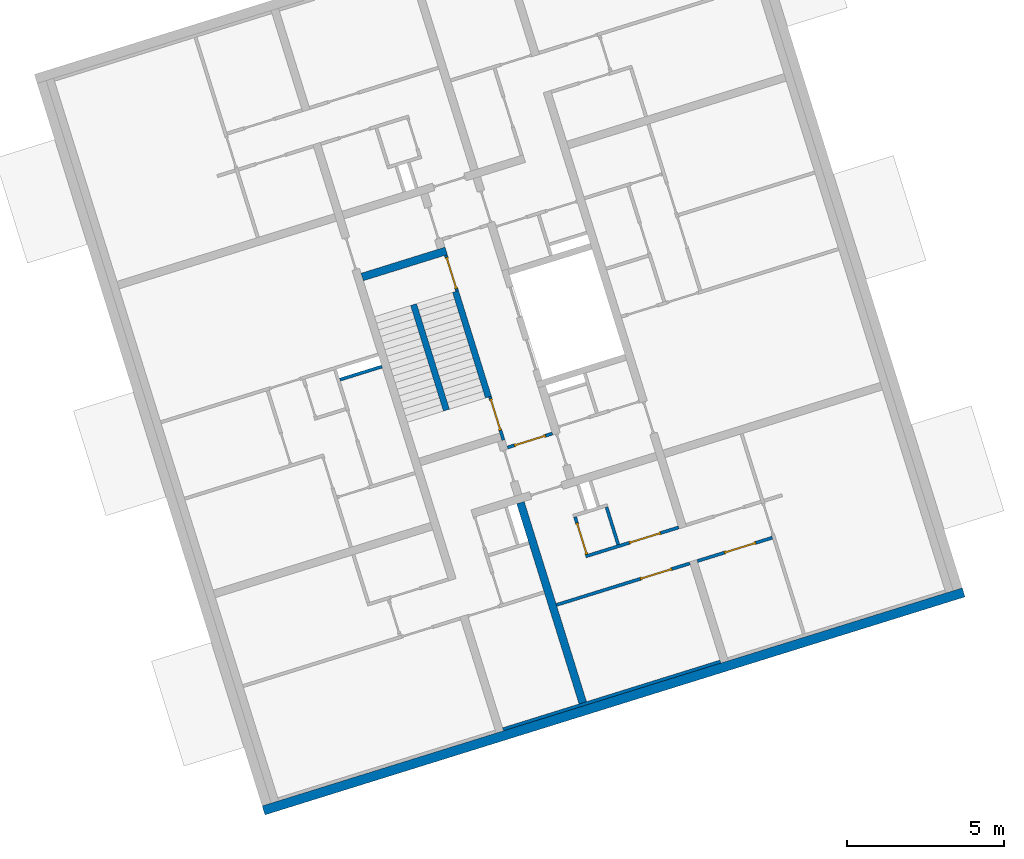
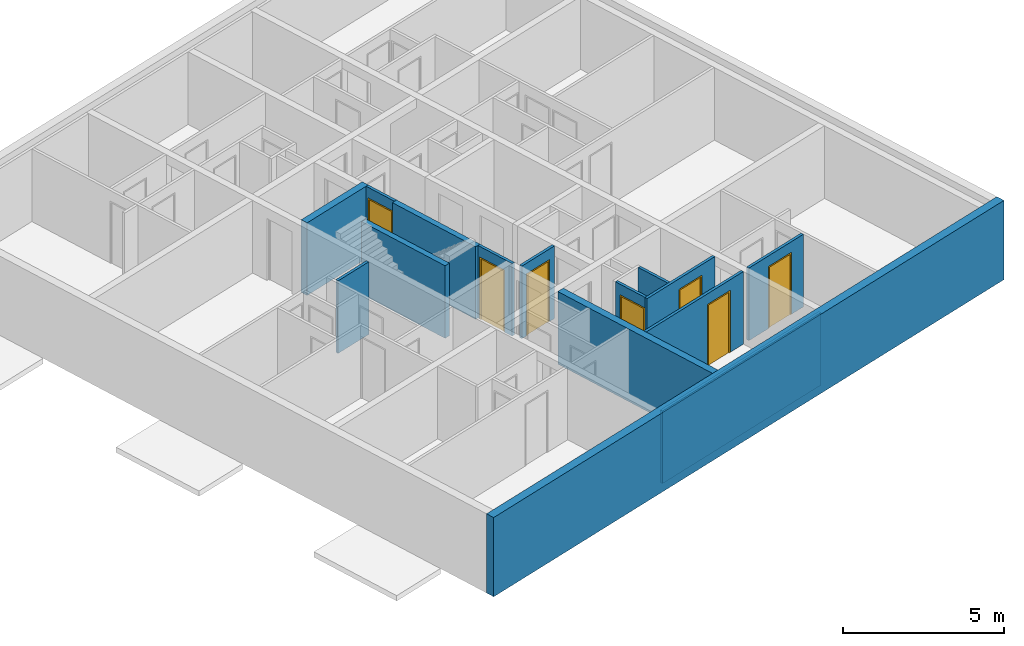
# One storey, part 3 of 9: 15 walls, 7 doors, 8 openings.
"""IFC4 building model written with IfcOpenShell, lengths in metres."""

from ifc_helpers import new_model, entity, si_unit, converted_unit, direction, frame, origin, place, context, subcontext, project, spatial, indexed_curve, outline, extrude, polygons, source, transform, mapped, material, constituent, constituent_set, type_object, type_shapes, element, fill, save


model = new_model("IFC4")

# Units and contexts
model_context = context("Model", 3, precision=1e-05, world=origin(), true_north=direction((6.12323399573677e-17, 1.0)))
body_context = subcontext(model_context, "Body", "Model", "MODEL_VIEW")
ifc_project = project(units=[si_unit("LENGTHUNIT", "METRE"), si_unit("AREAUNIT", "SQUARE_METRE"), converted_unit("PLANEANGLEUNIT", "DEGREE", entity("IfcPlaneAngleMeasure", 0.0174532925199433), si_unit("PLANEANGLEUNIT", "RADIAN"), dimensions=[0, 0, 0, 0, 0, 0, 0]), si_unit("VOLUMEUNIT", "CUBIC_METRE")], contexts=[model_context])

# Site, building, storey
site_placement = place(None, frame((13.1347999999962, 11.9886000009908, 0.0), z_axis=(0.0, 0.0, 1.0), x_axis=(0.954770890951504, 0.297342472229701, 0.0)))
site = spatial("IfcSite", under=ifc_project, at=site_placement, Name="Schiehaven", CompositionType="ELEMENT")
building_placement = place(site_placement, origin())
building = spatial("IfcBuilding", under=site, at=building_placement, Name="VORM huis", CompositionType="ELEMENT")
storey_placement = place(building_placement, frame((0.0, 0.0, 18.9)))
storey = spatial("IfcBuildingStorey", under=building, at=storey_placement, Name="06 zesde verdieping", CompositionType="ELEMENT", Elevation=18.9)

# Walls
ifc_material_1 = material(Name="ntb_ntb_ntb", Category="Miscellaneous")
wall_type_1 = type_object("IfcWallType", Name="Basic Wall:21_WA_gevel_binnenspouwwand 100mm_gen", PredefinedType="STANDARD")
wall_1_placement = place(storey_placement, frame((65.1250000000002, 5.0499999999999, 0.0)))
element("IfcWall", 1, at=wall_1_placement, inside=storey, type_object=wall_type_1, material=ifc_material_1, Name="Binnenspouwblad", ObjectType="Wand", PredefinedType="NOTDEFINED", context=body_context, shape_type="SweptSolid", body=[
    extrude(outline(indexed_curve([(7.24999999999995, 0.0500000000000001), (1.59680748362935e-16, 0.0500000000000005), (-1.59680748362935e-16, -0.0500000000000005), (7.24999999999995, -0.050000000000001), (7.24999999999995, 0.0500000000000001)], self_intersect=False)), origin(), (0.0, 0.0, 1.0), 2.75),
])
wall_type_2 = type_object("IfcWallType", Name="Basic Wall: 300mm_gen", PredefinedType="STANDARD")
wall_2_placement = place(storey_placement, frame((57.075, 4.8499999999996, 0.0)))
element("IfcWall", 2, at=wall_2_placement, inside=storey, type_object=wall_type_2, material=ifc_material_1, Name="Gevelwand", ObjectType="Wand", PredefinedType="NOTDEFINED", context=body_context, shape_type="SweptSolid", body=[
    extrude(outline(indexed_curve([(23.3500000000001, 0.15), (1.78509395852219e-15, 0.149999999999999), (-1.78509395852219e-15, -0.15), (23.3500000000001, -0.15), (23.3500000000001, 0.15)], self_intersect=False)), origin(), (0.0, 0.0, 1.0), 3.0),
])
ifc_material_2 = material(Name="beton_gewapend_prefab-element", Category="Miscellaneous")
wall_type_3 = type_object("IfcWallType", Name="Basic Wall:28_WA_skelet_wand 200mm_gen", PredefinedType="STANDARD")
wall_3_placement = place(storey_placement, frame((67.8250000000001, 15.2899999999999, 0.0), z_axis=(0.0, 0.0, 1.0), x_axis=(0.0, 1.0, 0.0)))
element("IfcWall", 3, at=wall_3_placement, inside=storey, type_object=wall_type_3, material=ifc_material_2, Name="Constructieve wand", ObjectType="Wand", PredefinedType="NOTDEFINED", context=body_context, shape_type="SweptSolid", body=[
    extrude(outline(indexed_curve([(3.52, 0.100000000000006), (1.54310621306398e-16, 0.100000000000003), (-1.54310621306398e-16, -0.100000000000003), (3.52, -0.1), (3.52, 0.100000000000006)], self_intersect=False)), origin(), (0.0, 0.0, 1.0), 2.75),
])
wall_4_placement = place(storey_placement, frame((66.4250000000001, 15.2899999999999, 0.0), z_axis=(0.0, 0.0, 1.0), x_axis=(0.0, 1.0, 0.0)))
element("IfcWall", 4, at=wall_4_placement, inside=storey, type_object=wall_type_3, material=ifc_material_2, Name="Constructieve wand", ObjectType="Wand", PredefinedType="NOTDEFINED", context=body_context, shape_type="SweptSolid", body=[
    extrude(outline(indexed_curve([(3.52, 0.100000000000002), (2.77363704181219e-16, 0.100000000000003), (-2.77363704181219e-16, -0.100000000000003), (3.52, -0.100000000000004), (3.52, 0.100000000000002)], self_intersect=False)), origin(), (0.0, 0.0, 1.0), 2.75),
])
wall_type_4 = type_object("IfcWallType", Name="Basic Wall:22_WA_afbouw_binnenwand 250mm_gen", PredefinedType="STANDARD")
wall_5_placement = place(storey_placement, frame((65.1249999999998, 20.1349999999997, 0.0)))
element("IfcWall", 5, at=wall_5_placement, inside=storey, type_object=wall_type_4, material=ifc_material_1, Name="Binnenwand", ObjectType="Wand", PredefinedType="NOTDEFINED", context=body_context, shape_type="SweptSolid", body=[
    extrude(outline(indexed_curve([(2.80000000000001, 0.124999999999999), (1.66486711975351e-15, 0.125000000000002), (-1.66486711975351e-15, -0.125000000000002), (2.80000000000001, -0.125000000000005), (2.80000000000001, 0.124999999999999)], self_intersect=False)), origin(), (0.0, 0.0, 1.0), 2.75),
])
wall_6_placement = place(storey_placement, frame((67.7999999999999, 11.7749999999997, 0.0), z_axis=(0.0, 0.0, 1.0), x_axis=(0.0, -1.0, 0.0)))
element("IfcWall", 6, at=wall_6_placement, inside=storey, type_object=wall_type_4, material=ifc_material_1, Name="Binnenwand", ObjectType="Wand", PredefinedType="NOTDEFINED", context=body_context, shape_type="SweptSolid", body=[
    extrude(outline(indexed_curve([(6.67500000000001, 0.124999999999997), (-6.98570836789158e-16, 0.124999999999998), (6.98570836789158e-16, -0.124999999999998), (6.67500000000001, -0.124999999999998), (6.67500000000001, 0.124999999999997)], self_intersect=False)), origin(), (0.0, 0.0, 1.0), 2.75),
])

# Wall, opening, door
wall_type_5 = type_object("IfcWallType", Name="Basic Wall:22_WA_afbouw_binnenwand 100mm_gen", PredefinedType="STANDARD")
wall_7_placement = place(storey_placement, frame((67.8749999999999, 13.8399999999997, 0.0), z_axis=(0.0, 0.0, 1.0), x_axis=(0.0, 1.0, 0.0)))
wall_7 = element("IfcWall", 7, at=wall_7_placement, inside=storey, type_object=wall_type_5, material=ifc_material_1, Name="Binnenwand", ObjectType="Wand", PredefinedType="NOTDEFINED", context=body_context, shape_type="Tessellation", body=[
    polygons([(1.44999999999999, -0.0500000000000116, 0.0), (1.44999999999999, -0.0500000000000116, 2.75), (0.0, -0.0500000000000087, 2.75), (0.0, -0.0500000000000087, 0.0), (0.324999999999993, -0.0500000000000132, 0.0), (0.324999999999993, -0.0500000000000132, 2.34999999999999), (1.37499999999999, -0.0500000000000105, 2.34999999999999), (1.37499999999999, -0.0500000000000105, 0.0), (1.44999999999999, 0.0500000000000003, 2.75), (1.44999999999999, 0.0500000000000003, 0.0), (1.37499999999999, 0.0500000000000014, 0.0), (1.37499999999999, 0.0500000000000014, 2.34999999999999), (0.324999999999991, 0.0499999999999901, 2.34999999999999), (0.324999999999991, 0.0499999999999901, 0.0), (0.250000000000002, 0.0499999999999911, 0.0), (2.16573425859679e-15, 0.0499999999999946, 0.0), (2.16573425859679e-15, 0.0499999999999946, 2.75), (0.250000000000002, 0.0499999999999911, 2.75)], [[[1, 2, 3, 4, 5, 6, 7, 8]], [[9, 10, 11, 12, 13, 14, 15, 16, 17, 18]], [[4, 16, 15, 14, 5]], [[2, 1, 10, 9]], [[3, 2, 9, 18, 17]], [[13, 6, 5, 14]], [[7, 12, 11, 8]], [[6, 13, 12, 7]], [[4, 3, 17, 16]], [[10, 1, 8, 11]]], closed=True),
])
opening_1_placement = place(wall_7_placement, frame((0.324999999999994, -0.0499999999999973, 0.0)))
opening_1 = element("IfcOpeningElement", 8, at=opening_1_placement, cuts=wall_7, Name="Vluchtdeur", PredefinedType="OPENING", context=body_context, shape_type="SweptSolid", body=[
    extrude(outline(indexed_curve([(2.34999999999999, 1.35358391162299e-15), (2.34999999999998, 1.05), (0.0, 1.05), (2.16573425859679e-15, 1.35358391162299e-15), (2.34999999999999, 1.35358391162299e-15)], self_intersect=False)), frame((0.0, 0.0, 0.0), z_axis=(0.0, 1.0, 0.0), x_axis=(0.0, 0.0, 1.0)), (0.0, 0.0, 1.0), 0.1),
])
ifc_material_3 = material(Name="PD_a_binnenwandopeningen", Category="Miscellaneous")
ifc_constituent_1 = constituent(ifc_material_3, Name="PD_a_binnenwandopeningen", Category="Miscellaneous")
ifc_material_4 = material(Name="metaal_aluminium_ntb", Category="Miscellaneous")
ifc_constituent_2 = constituent(ifc_material_4, Name="metaal_aluminium_ntb", Category="Miscellaneous")
ifc_constituent_set_1 = constituent_set(constituents=[ifc_constituent_1, ifc_constituent_2])
ifc_constituent_3 = constituent(ifc_material_3, Name="PD_a_binnenwandopeningen", Category="Miscellaneous")
ifc_constituent_4 = constituent(ifc_material_4, Name="Panel", Category="Miscellaneous")
ifc_constituent_set_2 = constituent_set(constituents=[ifc_constituent_3, ifc_constituent_4])
door_type_1 = type_object("IfcDoorType", Name="32_DO_binnendeur enkel:binnendeur zelfsluitend 30min", OperationType="NOTDEFINED", PredefinedType="DOOR", material=ifc_constituent_set_2)
shared_shape_1 = source(origin(), body_context, "Body", "SweptSolid", [
    extrude(outline(indexed_curve([(0.475, -1.16249999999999), (0.525, -1.16249999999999), (0.525, 1.18749999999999), (-0.525, 1.18749999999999), (-0.525, -1.16249999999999), (-0.475, -1.16249999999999), (-0.475, 1.13749999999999), (0.475, 1.13749999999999), (0.475, -1.16249999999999)], self_intersect=False)), frame((0.525000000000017, 0.100000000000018, 1.16249999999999), z_axis=(0.0, -1.0, 0.0), x_axis=(1.0, 0.0, 0.0)), (0.0, 0.0, 1.0), 0.1),
    extrude(outline(indexed_curve([(-0.475, -0.025), (0.475, -0.025), (0.475, 0.025), (-0.475, 0.025), (-0.475, -0.025)], self_intersect=False)), frame((0.525000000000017, 0.0499999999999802, 0.0)), (0.0, 0.0, 1.0), 2.29999999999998),
])
type_shapes(door_type_1, [shared_shape_1])
door_1_placement = place(opening_1_placement, origin())
door_1 = element("IfcDoor", 9, at=door_1_placement, inside=storey, type_object=door_type_1, material=ifc_constituent_set_1, Name="Vluchtdeur", ObjectType="Deur", OperationType="NOTDEFINED", OverallHeight=2.34999999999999, OverallWidth=1.05, PredefinedType="DOOR", context=body_context, shape_type="MappedRepresentation", body=[
    mapped(shared_shape_1, transform((0.0, 0.0, 0.0), scale=1.0)),
])
fill(opening_1, door_1)

wall_8_placement = place(storey_placement, frame((67.8750000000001, 20.0099999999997, 0.0), z_axis=(0.0, 0.0, 1.0), x_axis=(0.0, -1.0, 0.0)))
wall_8 = element("IfcWall", 10, at=wall_8_placement, inside=storey, type_object=wall_type_5, material=ifc_material_1, Name="Binnenwand", ObjectType="Wand", PredefinedType="NOTDEFINED", context=body_context, shape_type="Tessellation", body=[
    polygons([(1.19999999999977, -0.0500000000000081, 0.0), (1.19999999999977, -0.0500000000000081, 2.75), (0.0, -0.0500000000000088, 2.75), (0.0, -0.0500000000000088, 0.0), (0.0749999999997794, -0.0500000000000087, 0.0), (0.0749999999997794, -0.0500000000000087, 2.34999999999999), (1.12499999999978, -0.0500000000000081, 2.34999999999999), (1.12499999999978, -0.0500000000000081, 0.0), (1.19999999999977, 0.0499999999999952, 2.75), (1.19999999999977, 0.0499999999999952, 0.0), (1.12499999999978, 0.0499999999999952, 0.0), (1.12499999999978, 0.0499999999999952, 2.34999999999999), (0.0749999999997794, 0.0499999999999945, 2.34999999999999), (0.0749999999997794, 0.0499999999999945, 0.0), (0.0, 0.0499999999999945, 0.0), (0.0, 0.0499999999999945, 2.75)], [[[1, 2, 3, 4, 5, 6, 7, 8]], [[9, 10, 11, 12, 13, 14, 15, 16]], [[4, 15, 14, 5]], [[2, 1, 10, 9]], [[3, 2, 9, 16]], [[13, 6, 5, 14]], [[6, 13, 12, 7]], [[7, 12, 11, 8]], [[4, 3, 16, 15]], [[10, 1, 8, 11]]], closed=True),
])
opening_2_placement = place(wall_8_placement, frame((1.12499999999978, 0.0499999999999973, 0.0)))
opening_2 = element("IfcOpeningElement", 11, at=opening_2_placement, cuts=wall_8, Name="Vluchtdeur", PredefinedType="OPENING", context=body_context, shape_type="SweptSolid", body=[
    extrude(outline(indexed_curve([(2.34999999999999, 0.0), (2.34999999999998, 1.05), (0.0, 1.05), (2.16573425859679e-15, 0.0), (2.34999999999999, 0.0)], self_intersect=False)), frame((0.0, 0.0, 0.0), z_axis=(0.0, -1.0, 0.0), x_axis=(0.0, 0.0, 1.0)), (0.0, 0.0, 1.0), 0.1),
])
ifc_constituent_5 = constituent(ifc_material_3, Name="PD_a_binnenwandopeningen", Category="Miscellaneous")
ifc_constituent_6 = constituent(ifc_material_4, Name="metaal_aluminium_ntb", Category="Miscellaneous")
ifc_constituent_set_3 = constituent_set(constituents=[ifc_constituent_5, ifc_constituent_6])
door_2_placement = place(opening_2_placement, frame((0.0, 0.0, 0.0), z_axis=(0.0, 0.0, 1.0), x_axis=(-1.0, 0.0, 0.0)))
door_2 = element("IfcDoor", 12, at=door_2_placement, inside=storey, type_object=door_type_1, material=ifc_constituent_set_3, Name="Vluchtdeur", ObjectType="Deur", OperationType="NOTDEFINED", OverallHeight=2.34999999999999, OverallWidth=1.05, PredefinedType="DOOR", context=body_context, shape_type="MappedRepresentation", body=[
    mapped(shared_shape_1, transform((0.0, 0.0, 0.0), scale=1.0)),
])
fill(opening_2, door_2)

wall_9_placement = place(storey_placement, frame((67.9249999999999, 13.5749999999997, 0.0)))
wall_9 = element("IfcWall", 13, at=wall_9_placement, inside=storey, type_object=wall_type_5, material=ifc_material_1, Name="Binnenwand", ObjectType="Wand", PredefinedType="NOTDEFINED", context=body_context, shape_type="Tessellation", body=[
    polygons([(1.5, -0.0500000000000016, 2.75), (2.96853060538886e-15, -0.0500000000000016, 2.75), (2.96853060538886e-15, -0.0500000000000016, 2.34999999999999), (2.96853060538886e-15, -0.0500000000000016, 0.0), (0.225000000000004, -0.0500000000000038, 0.0), (0.225000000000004, -0.0500000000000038, 2.34999999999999), (1.27500000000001, -0.0500000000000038, 2.34999999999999), (1.27500000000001, -0.0500000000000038, 0.0), (1.5, -0.0500000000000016, 0.0), (1.5, -0.0500000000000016, 2.34999999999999), (4.71986391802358e-15, 0.0499999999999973, 2.75), (1.5, 0.0500000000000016, 2.75), (1.5, 0.0500000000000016, 0.0), (1.27500000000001, 0.0499999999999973, 0.0), (1.27500000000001, 0.0499999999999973, 2.34999999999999), (0.225000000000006, 0.0499999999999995, 2.34999999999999), (0.225000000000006, 0.0499999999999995, 0.0), (4.71986391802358e-15, 0.0499999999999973, 0.0)], [[[1, 2, 3, 4, 5, 6, 7, 8, 9, 10]], [[11, 12, 13, 14, 15, 16, 17, 18]], [[4, 18, 17, 5]], [[2, 1, 12, 11]], [[16, 6, 5, 17]], [[6, 16, 15, 7]], [[7, 15, 14, 8]], [[4, 3, 2, 11, 18]], [[1, 10, 9, 13, 12]], [[13, 9, 8, 14]]], closed=True),
])
opening_3_placement = place(wall_9_placement, frame((0.225000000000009, -0.0499999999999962, 0.0)))
opening_3 = element("IfcOpeningElement", 14, at=opening_3_placement, cuts=wall_9, Name="Vluchtdeur", PredefinedType="OPENING", context=body_context, shape_type="SweptSolid", body=[
    extrude(outline(indexed_curve([(2.34999999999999, 1.05), (0.0, 1.05), (0.0, 1.86682906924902e-29), (2.34999999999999, 1.86682906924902e-29), (2.34999999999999, 1.05)], self_intersect=False)), frame((0.0, 0.0, 0.0), z_axis=(0.0, 1.0, 0.0), x_axis=(0.0, 0.0, 1.0)), (0.0, 0.0, 1.0), 0.1),
])
ifc_constituent_7 = constituent(ifc_material_3, Name="PD_a_binnenwandopeningen", Category="Miscellaneous")
ifc_constituent_8 = constituent(ifc_material_4, Name="metaal_aluminium_ntb", Category="Miscellaneous")
ifc_constituent_set_4 = constituent_set(constituents=[ifc_constituent_7, ifc_constituent_8])
ifc_constituent_9 = constituent(ifc_material_3, Name="PD_a_binnenwandopeningen", Category="Miscellaneous")
ifc_constituent_10 = constituent(ifc_material_4, Name="Panel", Category="Miscellaneous")
ifc_constituent_set_5 = constituent_set(constituents=[ifc_constituent_9, ifc_constituent_10])
door_type_2 = type_object("IfcDoorType", Name="32_DO_binnendeur enkel:binnendeur zelfsluitend 30min", OperationType="NOTDEFINED", PredefinedType="DOOR", material=ifc_constituent_set_5)
shared_shape_2 = source(origin(), body_context, "Body", "SweptSolid", [
    extrude(outline(indexed_curve([(-1.16249999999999, -0.525000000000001), (1.18749999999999, -0.525), (1.18749999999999, 0.525), (-1.16249999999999, 0.525), (-1.16249999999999, 0.475), (1.13749999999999, 0.475), (1.13749999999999, -0.475), (-1.16249999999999, -0.475), (-1.16249999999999, -0.525000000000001)], self_intersect=False)), frame((0.525000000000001, 0.0, 1.16249999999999), z_axis=(0.0, 1.0, 0.0), x_axis=(0.0, 0.0, 1.0)), (0.0, 0.0, 1.0), 0.1),
    extrude(outline(indexed_curve([(-0.025, -0.475), (0.025, -0.475), (0.025, 0.475), (-0.025, 0.475), (-0.025, -0.475)], self_intersect=False)), frame((0.525000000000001, 0.0499999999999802, 0.0), z_axis=(0.0, 0.0, 1.0), x_axis=(0.0, 1.0, 0.0)), (0.0, 0.0, 1.0), 2.29999999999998),
])
type_shapes(door_type_2, [shared_shape_2])
door_3_placement = place(opening_3_placement, origin())
door_3 = element("IfcDoor", 15, at=door_3_placement, inside=storey, type_object=door_type_2, material=ifc_constituent_set_4, Name="Vluchtdeur", ObjectType="Deur", OperationType="NOTDEFINED", OverallHeight=2.34999999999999, OverallWidth=1.05, PredefinedType="DOOR", context=body_context, shape_type="MappedRepresentation", body=[
    mapped(shared_shape_2, transform((0.0, 0.0, 0.0), scale=1.0)),
])
fill(opening_3, door_3)

wall_10_placement = place(storey_placement, frame((72.375, 8.32499999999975, 0.0), z_axis=(0.0, 0.0, 1.0), x_axis=(-1.0, 0.0, 0.0)))
wall_10 = element("IfcWall", 16, at=wall_10_placement, inside=storey, type_object=wall_type_5, material=ifc_material_1, Name="Binnenwand", ObjectType="Wand", PredefinedType="NOTDEFINED", context=body_context, shape_type="Tessellation", body=[
    polygons([(-1.02529302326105e-15, -0.0500000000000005, 2.16573425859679e-15), (0.600000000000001, -0.0500000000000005, 2.16573425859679e-15), (0.600000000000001, -0.0500000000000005, 2.34999999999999), (1.65000000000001, -0.0500000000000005, 2.34999999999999), (1.65000000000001, -0.0500000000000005, 2.16573425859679e-15), (4.45000000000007, -0.0500000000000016, 2.16573425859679e-15), (4.45000000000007, -0.0500000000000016, 2.75), (-1.02529302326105e-15, -0.0500000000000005, 2.75), (0.600000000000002, 0.0499999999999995, 2.34999999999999), (0.600000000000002, 0.0499999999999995, 2.16573425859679e-15), (2.28205931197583e-16, 0.0499999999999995, 2.16573425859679e-15), (2.28205931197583e-16, 0.0499999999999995, 2.75), (4.45000000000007, 0.0499999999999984, 2.75), (4.45000000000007, 0.0499999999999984, 2.16573425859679e-15), (1.65000000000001, 0.0499999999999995, 2.16573425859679e-15), (1.65000000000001, 0.0499999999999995, 2.34999999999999)], [[[1, 2, 3, 4, 5, 6, 7, 8]], [[9, 10, 11, 12, 13, 14, 15, 16]], [[11, 10, 2, 1]], [[7, 6, 14, 13]], [[8, 7, 13, 12]], [[1, 8, 12, 11]], [[5, 4, 16, 15]], [[3, 2, 10, 9]], [[4, 3, 9, 16]], [[15, 14, 6, 5]]], closed=True),
])
opening_4_placement = place(wall_10_placement, frame((1.65000000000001, 0.0500000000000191, 0.0)))
opening_4 = element("IfcOpeningElement", 17, at=opening_4_placement, cuts=wall_10, Name="Binnendeur", PredefinedType="OPENING", context=body_context, shape_type="SweptSolid", body=[
    extrude(outline(indexed_curve([(2.34999999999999, 2.1208950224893e-30), (2.34999999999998, 1.05), (0.0, 1.05), (2.16573425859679e-15, 2.1208950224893e-30), (2.34999999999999, 2.1208950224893e-30)], self_intersect=False)), frame((0.0, 0.0, 0.0), z_axis=(0.0, -1.0, 0.0), x_axis=(0.0, 0.0, 1.0)), (0.0, 0.0, 1.0), 0.1),
])
ifc_constituent_11 = constituent(ifc_material_3, Name="PD_a_binnenwandopeningen", Category="Miscellaneous")
ifc_constituent_12 = constituent(ifc_material_4, Name="metaal_aluminium_ntb", Category="Miscellaneous")
ifc_constituent_set_6 = constituent_set(constituents=[ifc_constituent_11, ifc_constituent_12])
ifc_constituent_13 = constituent(ifc_material_3, Name="PD_a_binnenwandopeningen", Category="Miscellaneous")
ifc_constituent_14 = constituent(ifc_material_4, Name="Panel", Category="Miscellaneous")
ifc_constituent_set_7 = constituent_set(constituents=[ifc_constituent_13, ifc_constituent_14])
door_type_3 = type_object("IfcDoorType", Name="32_DO_binnendeur enkel:binnendeur", OperationType="REVOLVING", PredefinedType="DOOR", material=ifc_constituent_set_7)
shared_shape_3 = source(origin(), body_context, "Body", "SweptSolid", [
    extrude(outline(indexed_curve([(0.475, -1.16249999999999), (0.525, -1.16249999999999), (0.525, 1.18749999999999), (-0.525, 1.18749999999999), (-0.525, -1.16249999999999), (-0.475, -1.16249999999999), (-0.475, 1.13749999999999), (0.475, 1.13749999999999), (0.475, -1.16249999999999)], self_intersect=False)), frame((0.525000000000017, 0.100000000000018, 1.16249999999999), z_axis=(0.0, -1.0, 0.0), x_axis=(1.0, 0.0, 0.0)), (0.0, 0.0, 1.0), 0.1),
    extrude(outline(indexed_curve([(-0.475, -0.025), (0.475, -0.025), (0.475, 0.025), (-0.475, 0.025), (-0.475, -0.025)], self_intersect=False)), frame((0.525000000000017, 0.0499999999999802, 0.0)), (0.0, 0.0, 1.0), 2.29999999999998),
])
type_shapes(door_type_3, [shared_shape_3])
door_4_placement = place(opening_4_placement, frame((0.0, 0.0, 0.0), z_axis=(0.0, 0.0, 1.0), x_axis=(-1.0, 0.0, 0.0)))
door_4 = element("IfcDoor", 18, at=door_4_placement, inside=storey, type_object=door_type_3, material=ifc_constituent_set_6, Name="Binnendeur", ObjectType="Deur", OperationType="REVOLVING", OverallHeight=2.34999999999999, OverallWidth=1.05, PredefinedType="DOOR", context=body_context, shape_type="MappedRepresentation", body=[
    mapped(shared_shape_3, transform((0.0, 0.0, 0.0), scale=1.0)),
])
fill(opening_4, door_4)

# Wall, openings, door
wall_11_placement = place(storey_placement, frame((72.375, 9.52499999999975, 0.0), z_axis=(0.0, 0.0, 1.0), x_axis=(-1.0, 0.0, 0.0)))
wall_11 = element("IfcWall", 19, at=wall_11_placement, inside=storey, type_object=wall_type_5, material=ifc_material_1, Name="Binnenwand", ObjectType="Wand", PredefinedType="NOTDEFINED", context=body_context, shape_type="Tessellation", body=[
    polygons([(1.65, -0.0500000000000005, 2.34999999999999), (1.65, -0.0500000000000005, 2.16573425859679e-15), (1.95000000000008, -0.0500000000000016, 2.16573425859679e-15), (2.05000000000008, -0.0500000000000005, 2.16573425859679e-15), (3.10000000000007, -0.0500000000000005, 2.16573425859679e-15), (3.10000000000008, -0.0500000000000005, 2.34999999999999), (3.10000000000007, -0.0500000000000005, 2.75), (3.00000000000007, -0.0500000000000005, 2.75), (2.05000000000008, -0.0500000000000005, 2.75), (1.95000000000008, -0.0500000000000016, 2.75), (1.25859359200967e-15, -0.0500000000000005, 2.75), (1.25859359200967e-15, -0.0500000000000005, 2.16573425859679e-15), (0.599999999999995, -0.0500000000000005, 2.16573425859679e-15), (0.599999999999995, -0.0500000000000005, 2.34999999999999), (3.10000000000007, 0.0499999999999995, 2.16573425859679e-15), (1.65, 0.0499999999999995, 2.16573425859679e-15), (1.65, 0.0499999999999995, 2.34999999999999), (0.599999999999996, 0.0499999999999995, 2.34999999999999), (0.599999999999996, 0.0499999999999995, 2.16573425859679e-15), (2.51209254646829e-15, 0.0499999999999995, 2.16573425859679e-15), (2.51209254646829e-15, 0.0499999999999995, 2.75), (3.10000000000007, 0.0499999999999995, 2.75)], [[[1, 2, 3, 4, 5, 6, 7, 8, 9, 10, 11, 12, 13, 14]], [[15, 16, 17, 18, 19, 20, 21, 22]], [[13, 12, 20, 19]], [[11, 10, 9, 8, 7, 22, 21]], [[12, 11, 21, 20]], [[19, 18, 14, 13]], [[17, 16, 2, 1]], [[18, 17, 1, 14]], [[7, 6, 5, 15, 22]], [[5, 4, 3, 2, 16, 15]]], closed=True),
])
opening_5_placement = place(wall_11_placement, origin())
element("IfcOpeningElement", 20, at=opening_5_placement, cuts=wall_11, Name="Binnendeur", PredefinedType="OPENING", context=body_context, shape_type="SweptSolid", body=[
    extrude(outline(indexed_curve([(-0.050000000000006, -1.17499999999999), (0.0499999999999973, -1.17499999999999), (0.0499999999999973, 1.17499999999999), (-0.050000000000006, 1.17499999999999), (-0.050000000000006, -1.17499999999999)], self_intersect=False)), frame((3.05000000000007, -1.1, 1.17499999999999), z_axis=(0.0, 1.0, 0.0), x_axis=(1.0, 0.0, 0.0)), (0.0, 0.0, 1.0), 1.05),
])
opening_6_placement = place(wall_11_placement, frame((0.599999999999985, -0.0499999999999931, 0.0)))
opening_6 = element("IfcOpeningElement", 21, at=opening_6_placement, cuts=wall_11, Name="Binnendeur", PredefinedType="OPENING", context=body_context, shape_type="SweptSolid", body=[
    extrude(outline(indexed_curve([(2.34999999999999, 2.1208950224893e-30), (2.34999999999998, 1.05), (0.0, 1.05), (2.16573425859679e-15, 2.1208950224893e-30), (2.34999999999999, 2.1208950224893e-30)], self_intersect=False)), frame((0.0, 0.0, 0.0), z_axis=(0.0, 1.0, 0.0), x_axis=(0.0, 0.0, 1.0)), (0.0, 0.0, 1.0), 0.1),
])
ifc_constituent_15 = constituent(ifc_material_3, Name="PD_a_binnenwandopeningen", Category="Miscellaneous")
ifc_constituent_16 = constituent(ifc_material_4, Name="metaal_aluminium_ntb", Category="Miscellaneous")
ifc_constituent_set_8 = constituent_set(constituents=[ifc_constituent_15, ifc_constituent_16])
door_5_placement = place(opening_6_placement, origin())
door_5 = element("IfcDoor", 22, at=door_5_placement, inside=storey, type_object=door_type_3, material=ifc_constituent_set_8, Name="Binnendeur", ObjectType="Deur", OperationType="REVOLVING", OverallHeight=2.34999999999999, OverallWidth=1.05, PredefinedType="DOOR", context=body_context, shape_type="MappedRepresentation", body=[
    mapped(shared_shape_3, transform((0.0, 0.0, 0.0), scale=1.0)),
])
fill(opening_6, door_5)

# Wall, opening, door
wall_12_placement = place(storey_placement, frame((69.3249999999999, 9.57499999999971, 0.0), z_axis=(0.0, 0.0, 1.0), x_axis=(0.0, 1.0, 0.0)))
wall_12 = element("IfcWall", 23, at=wall_12_placement, inside=storey, type_object=wall_type_5, material=ifc_material_1, Name="Binnenwand", ObjectType="Wand", PredefinedType="NOTDEFINED", context=body_context, shape_type="Tessellation", body=[
    polygons([(1.25, -0.0500000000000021, 2.75), (3.24860138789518e-15, -0.0500000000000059, 2.75), (1.08286712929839e-15, -0.0500000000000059, 2.34999999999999), (1.05, -0.0500000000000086, 2.34999999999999), (1.05, -0.0500000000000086, 2.16573425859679e-15), (1.25, -0.0500000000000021, 2.16573425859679e-15), (1.08286712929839e-15, 0.0499999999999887, 2.75), (1.25, 0.0500000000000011, 2.75), (1.25, 0.0500000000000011, 2.16573425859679e-15), (1.05, 0.0500000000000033, 2.16573425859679e-15), (1.05, 0.0499999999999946, 2.34999999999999), (1.08286712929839e-15, 0.0499999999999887, 2.34999999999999)], [[[1, 2, 3, 4, 5, 6]], [[7, 8, 9, 10, 11, 12]], [[9, 6, 5, 10]], [[2, 1, 8, 7]], [[4, 11, 10, 5]], [[11, 4, 3, 12]], [[1, 6, 9, 8]], [[2, 7, 12, 3]]], closed=True),
])
opening_7_placement = place(wall_12_placement, frame((0.0, -0.0499999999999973, 0.0)))
opening_7 = element("IfcOpeningElement", 24, at=opening_7_placement, cuts=wall_12, Name="Binnendeur", PredefinedType="OPENING", context=body_context, shape_type="SweptSolid", body=[
    extrude(outline(indexed_curve([(2.34999999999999, 1.35358391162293e-15), (2.34999999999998, 1.05), (0.0, 1.05), (2.16573425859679e-15, 1.35358391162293e-15), (2.34999999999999, 1.35358391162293e-15)], self_intersect=False)), frame((0.0, 0.0, 0.0), z_axis=(0.0, 1.0, 0.0), x_axis=(0.0, 0.0, 1.0)), (0.0, 0.0, 1.0), 0.1),
])
ifc_constituent_17 = constituent(ifc_material_3, Name="PD_a_binnenwandopeningen", Category="Miscellaneous")
ifc_constituent_18 = constituent(ifc_material_4, Name="metaal_aluminium_ntb", Category="Miscellaneous")
ifc_constituent_set_9 = constituent_set(constituents=[ifc_constituent_17, ifc_constituent_18])
door_6_placement = place(opening_7_placement, origin())
door_6 = element("IfcDoor", 25, at=door_6_placement, inside=storey, type_object=door_type_3, material=ifc_constituent_set_9, Name="Binnendeur", ObjectType="Deur", OperationType="REVOLVING", OverallHeight=2.34999999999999, OverallWidth=1.05, PredefinedType="DOOR", context=body_context, shape_type="MappedRepresentation", body=[
    mapped(shared_shape_3, transform((0.0, 0.0, 0.0), scale=1.0)),
])
fill(opening_7, door_6)

# Wall
wall_13_placement = place(storey_placement, frame((70.3749999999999, 10.8249999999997, 0.0), z_axis=(0.0, 0.0, 1.0), x_axis=(0.0, -1.0, 0.0)))
element("IfcWall", 26, at=wall_13_placement, inside=storey, type_object=wall_type_5, material=ifc_material_1, Name="Binnenwand", ObjectType="Wand", PredefinedType="NOTDEFINED", context=body_context, shape_type="SweptSolid", body=[
    extrude(outline(indexed_curve([(1.25, 0.0500000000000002), (5.75634952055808e-16, 0.0499999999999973), (-5.75634952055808e-16, -0.0499999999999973), (1.25, -0.0499999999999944), (1.25, 0.0500000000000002)], self_intersect=False)), origin(), (0.0, 0.0, 1.0), 2.75),
])

# Wall, opening, door
wall_14_placement = place(storey_placement, frame((72.625, 8.32499999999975, 0.0)))
wall_14 = element("IfcWall", 27, at=wall_14_placement, inside=storey, type_object=wall_type_5, material=ifc_material_1, Name="Binnenwand", ObjectType="Wand", PredefinedType="NOTDEFINED", context=body_context, shape_type="Tessellation", body=[
    polygons([(1.06419389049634e-16, -0.0500000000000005, 2.16573425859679e-15), (0.899999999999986, -0.0500000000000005, 2.16573425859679e-15), (0.899999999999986, -0.0500000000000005, 2.34999999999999), (1.94999999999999, -0.0500000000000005, 2.34999999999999), (1.94999999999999, -0.0500000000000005, 2.16573425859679e-15), (2.50000000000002, -0.0500000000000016, 2.16573425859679e-15), (2.50000000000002, -0.0500000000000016, 2.75), (1.06419389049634e-16, -0.0500000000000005, 2.75), (0.899999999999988, 0.0500000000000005, 2.34999999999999), (0.899999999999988, 0.0500000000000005, 2.16573425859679e-15), (1.78271439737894e-15, 0.0499999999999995, 2.16573425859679e-15), (1.78271439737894e-15, 0.0499999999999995, 2.75), (2.50000000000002, 0.0499999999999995, 2.75), (2.5, 0.0499999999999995, 2.16573425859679e-15), (1.94999999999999, 0.0500000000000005, 2.16573425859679e-15), (1.94999999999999, 0.0500000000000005, 2.34999999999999)], [[[1, 2, 3, 4, 5, 6, 7, 8]], [[9, 10, 11, 12, 13, 14, 15, 16]], [[11, 10, 2, 1]], [[8, 7, 13, 12]], [[1, 8, 12, 11]], [[5, 4, 16, 15]], [[3, 2, 10, 9]], [[4, 3, 9, 16]], [[7, 6, 14, 13]], [[15, 14, 6, 5]]], closed=True),
])
opening_8_placement = place(wall_14_placement, frame((0.899999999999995, -0.0499999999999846, 0.0)))
opening_8 = element("IfcOpeningElement", 28, at=opening_8_placement, cuts=wall_14, Name="Binnendeur", PredefinedType="OPENING", context=body_context, shape_type="SweptSolid", body=[
    extrude(outline(indexed_curve([(2.34999999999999, 1.05), (0.0, 1.05), (0.0, 4.67982478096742e-30), (2.34999999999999, 4.67982478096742e-30), (2.34999999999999, 1.05)], self_intersect=False)), frame((0.0, 0.0, 0.0), z_axis=(0.0, 1.0, 0.0), x_axis=(0.0, 0.0, 1.0)), (0.0, 0.0, 1.0), 0.1),
])
ifc_constituent_19 = constituent(ifc_material_3, Name="PD_a_binnenwandopeningen", Category="Miscellaneous")
ifc_constituent_20 = constituent(ifc_material_4, Name="metaal_aluminium_ntb", Category="Miscellaneous")
ifc_constituent_set_10 = constituent_set(constituents=[ifc_constituent_19, ifc_constituent_20])
ifc_constituent_21 = constituent(ifc_material_3, Name="PD_a_binnenwandopeningen", Category="Miscellaneous")
ifc_constituent_22 = constituent(ifc_material_4, Name="Panel", Category="Miscellaneous")
ifc_constituent_set_11 = constituent_set(constituents=[ifc_constituent_21, ifc_constituent_22])
door_type_4 = type_object("IfcDoorType", Name="32_DO_binnendeur enkel:binnendeur", OperationType="REVOLVING", PredefinedType="DOOR", material=ifc_constituent_set_11)
shared_shape_4 = source(origin(), body_context, "Body", "SweptSolid", [
    extrude(outline(indexed_curve([(-1.16249999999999, -0.525000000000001), (1.18749999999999, -0.525), (1.18749999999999, 0.525), (-1.16249999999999, 0.525), (-1.16249999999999, 0.475), (1.13749999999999, 0.475), (1.13749999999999, -0.475), (-1.16249999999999, -0.475), (-1.16249999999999, -0.525000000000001)], self_intersect=False)), frame((0.525000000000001, 0.0, 1.16249999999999), z_axis=(0.0, 1.0, 0.0), x_axis=(0.0, 0.0, 1.0)), (0.0, 0.0, 1.0), 0.1),
    extrude(outline(indexed_curve([(-0.025, -0.475), (0.025, -0.475), (0.025, 0.475), (-0.025, 0.475), (-0.025, -0.475)], self_intersect=False)), frame((0.525000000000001, 0.0499999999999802, 0.0), z_axis=(0.0, 0.0, 1.0), x_axis=(0.0, 1.0, 0.0)), (0.0, 0.0, 1.0), 2.29999999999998),
])
type_shapes(door_type_4, [shared_shape_4])
door_7_placement = place(opening_8_placement, origin())
door_7 = element("IfcDoor", 29, at=door_7_placement, inside=storey, type_object=door_type_4, material=ifc_constituent_set_10, Name="Binnendeur", ObjectType="Deur", OperationType="REVOLVING", OverallHeight=2.34999999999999, OverallWidth=1.05, PredefinedType="DOOR", context=body_context, shape_type="MappedRepresentation", body=[
    mapped(shared_shape_4, transform((0.0, 0.0, 0.0), scale=1.0)),
])
fill(opening_8, door_7)

# Wall
wall_15_placement = place(storey_placement, frame((64.8771642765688, 17.2249999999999, 0.0), z_axis=(0.0, 0.0, 1.0), x_axis=(-1.0, 0.0, 0.0)))
element("IfcWall", 30, at=wall_15_placement, inside=storey, type_object=wall_type_5, material=ifc_material_1, Name="Binnenwand", ObjectType="Wand", PredefinedType="NOTDEFINED", context=body_context, shape_type="SweptSolid", body=[
    extrude(outline(indexed_curve([(1.40216427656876, 0.0499999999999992), (8.93476767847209e-18, 0.0499999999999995), (-8.93476767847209e-18, -0.0499999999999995), (1.40216427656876, -0.0499999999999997), (1.40216427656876, 0.0499999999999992)], self_intersect=False)), origin(), (0.0, 0.0, 1.0), 2.75),
])

save(model, "model.ifc")
